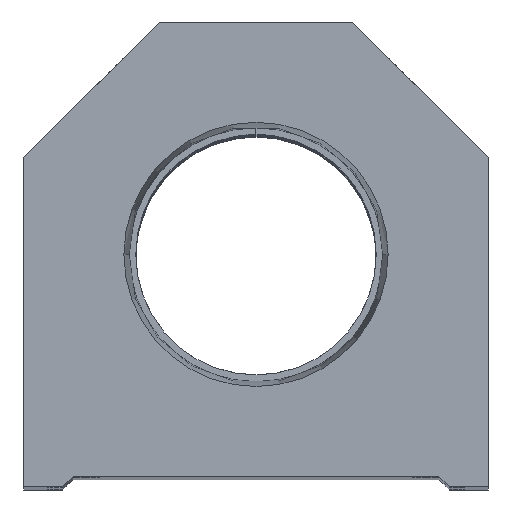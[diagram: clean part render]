
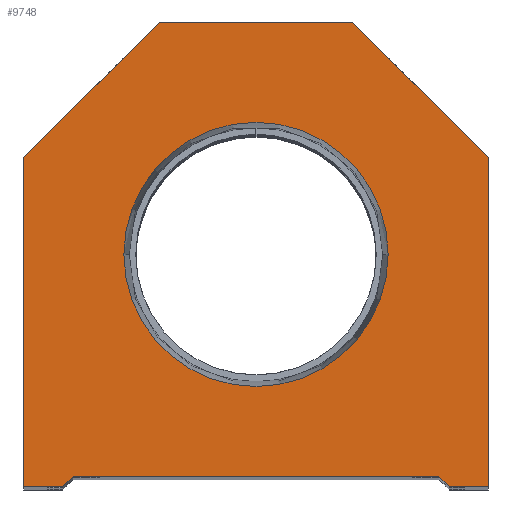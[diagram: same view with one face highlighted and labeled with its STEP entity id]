
A CAD part, top view. The second image highlights one B-rep face of the part: STEP entity #9748.
In plain terms, the highlighted planar face has unit normal (0, 0, 1).
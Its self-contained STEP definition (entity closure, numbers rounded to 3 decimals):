
#51 = CARTESIAN_POINT ( 'NONE',  ( 9.25, 9.25, 0. ) ) ;
#817 = DIRECTION ( 'NONE',  ( 1., 0., 0. ) ) ;
#842 = CARTESIAN_POINT ( 'NONE',  ( -12.647, 22.25, 0. ) ) ;
#962 = DIRECTION ( 'NONE',  ( 1., 0., 0. ) ) ;
#1086 = CARTESIAN_POINT ( 'NONE',  ( -17.5, 1., 0. ) ) ;
#1232 = ORIENTED_EDGE ( 'NONE', *, *, #11623, .F. ) ;
#1236 = VERTEX_POINT ( 'NONE', #6977 ) ;
#1244 = VERTEX_POINT ( 'NONE', #8504 ) ;
#1362 = FACE_BOUND ( 'NONE', #6510, .T. ) ;
#1692 = CARTESIAN_POINT ( 'NONE',  ( 0., 22.25, 0. ) ) ;
#1778 = CARTESIAN_POINT ( 'NONE',  ( -22.25, 31.5, 0. ) ) ;
#2147 = ORIENTED_EDGE ( 'NONE', *, *, #10904, .T. ) ;
#2173 = VERTEX_POINT ( 'NONE', #4655 ) ;
#2257 = CARTESIAN_POINT ( 'NONE',  ( 17.5, 0., 0. ) ) ;
#2320 = VECTOR ( 'NONE', #9223, 1000. ) ;
#2428 = LINE ( 'NONE', #2257, #6087 ) ;
#2539 = DIRECTION ( 'NONE',  ( 1., 0., 0. ) ) ;
#2622 = LINE ( 'NONE', #14489, #2320 ) ;
#2826 = EDGE_CURVE ( 'NONE', #2173, #12449, #11723, .T. ) ;
#3213 = VECTOR ( 'NONE', #15194, 1000. ) ;
#3239 = VECTOR ( 'NONE', #8543, 1000. ) ;
#3306 = CARTESIAN_POINT ( 'NONE',  ( -17.5, 0., 0. ) ) ;
#3555 = CARTESIAN_POINT ( 'NONE',  ( 18.5, 0., 0. ) ) ;
#3627 = DIRECTION ( 'NONE',  ( 0.707, -0.707, 0. ) ) ;
#4200 = EDGE_CURVE ( 'NONE', #13929, #14478, #13826, .T. ) ;
#4459 = EDGE_CURVE ( 'NONE', #1236, #11654, #14755, .T. ) ;
#4585 = EDGE_CURVE ( 'NONE', #14478, #2173, #11598, .T. ) ;
#4655 = CARTESIAN_POINT ( 'NONE',  ( -9.25, 44.5, 0. ) ) ;
#4717 = CARTESIAN_POINT ( 'NONE',  ( 9.25, 44.5, 0. ) ) ;
#4728 = DIRECTION ( 'NONE',  ( 0., 0., 1. ) ) ;
#4867 = CARTESIAN_POINT ( 'NONE',  ( 22.25, 0., 0. ) ) ;
#5041 = CARTESIAN_POINT ( 'NONE',  ( -9.25, 9.25, 0. ) ) ;
#5233 = ORIENTED_EDGE ( 'NONE', *, *, #9193, .T. ) ;
#5277 = EDGE_CURVE ( 'NONE', #12292, #1244, #14054, .T. ) ;
#5284 = VERTEX_POINT ( 'NONE', #3555 ) ;
#5785 = DIRECTION ( 'NONE',  ( 0., 0., 1. ) ) ;
#5833 = ORIENTED_EDGE ( 'NONE', *, *, #4200, .T. ) ;
#6087 = VECTOR ( 'NONE', #962, 1000. ) ;
#6159 = CIRCLE ( 'NONE', #12984, 12.647 ) ;
#6233 = VERTEX_POINT ( 'NONE', #14453 ) ;
#6407 = CARTESIAN_POINT ( 'NONE',  ( -22.25, 31.5, 0. ) ) ;
#6510 = EDGE_LOOP ( 'NONE', ( #8389, #1232 ) ) ;
#6518 = VECTOR ( 'NONE', #15500, 1000. ) ;
#6740 = VECTOR ( 'NONE', #10273, 1000. ) ;
#6977 = CARTESIAN_POINT ( 'NONE',  ( -22.25, 0., 0. ) ) ;
#7567 = LINE ( 'NONE', #51, #10184 ) ;
#7573 = CARTESIAN_POINT ( 'NONE',  ( 9.25, 44.5, 0. ) ) ;
#8228 = VERTEX_POINT ( 'NONE', #842 ) ;
#8281 = DIRECTION ( 'NONE',  ( 1., 0., 0. ) ) ;
#8389 = ORIENTED_EDGE ( 'NONE', *, *, #12927, .F. ) ;
#8504 = CARTESIAN_POINT ( 'NONE',  ( 17.5, 1., 0. ) ) ;
#8543 = DIRECTION ( 'NONE',  ( -0.707, 0.707, 0. ) ) ;
#8885 = CIRCLE ( 'NONE', #11338, 12.647 ) ;
#8911 = VERTEX_POINT ( 'NONE', #9052 ) ;
#8969 = PLANE ( 'NONE',  #13224 ) ;
#9052 = CARTESIAN_POINT ( 'NONE',  ( 22.25, 0., 0. ) ) ;
#9076 = DIRECTION ( 'NONE',  ( 0., 1., 0. ) ) ;
#9193 = EDGE_CURVE ( 'NONE', #1244, #5284, #7567, .T. ) ;
#9223 = DIRECTION ( 'NONE',  ( 0., -1., 0. ) ) ;
#9517 = EDGE_CURVE ( 'NONE', #5284, #8911, #2428, .T. ) ;
#9748 = ADVANCED_FACE ( 'NONE', ( #1362, #10514 ), #8969, .T. ) ;
#10184 = VECTOR ( 'NONE', #3627, 1000. ) ;
#10273 = DIRECTION ( 'NONE',  ( 0.707, 0.707, 0. ) ) ;
#10514 = FACE_OUTER_BOUND ( 'NONE', #12221, .T. ) ;
#10846 = CARTESIAN_POINT ( 'NONE',  ( -18.5, 0., 0. ) ) ;
#10904 = EDGE_CURVE ( 'NONE', #8911, #13929, #15449, .T. ) ;
#11112 = EDGE_CURVE ( 'NONE', #12449, #1236, #2622, .T. ) ;
#11246 = ORIENTED_EDGE ( 'NONE', *, *, #9517, .T. ) ;
#11338 = AXIS2_PLACEMENT_3D ( 'NONE', #1692, #5785, #12123 ) ;
#11536 = CARTESIAN_POINT ( 'NONE',  ( 0., 0., 0. ) ) ;
#11598 = LINE ( 'NONE', #7573, #6518 ) ;
#11614 = DIRECTION ( 'NONE',  ( 0., 0., 1. ) ) ;
#11623 = EDGE_CURVE ( 'NONE', #8228, #6233, #8885, .T. ) ;
#11654 = VERTEX_POINT ( 'NONE', #10846 ) ;
#11723 = LINE ( 'NONE', #6407, #3213 ) ;
#12123 = DIRECTION ( 'NONE',  ( 1., 0., 0. ) ) ;
#12221 = EDGE_LOOP ( 'NONE', ( #15669, #13210, #13648, #5233, #11246, #2147, #5833, #16251, #13941, #13930 ) ) ;
#12292 = VERTEX_POINT ( 'NONE', #16618 ) ;
#12449 = VERTEX_POINT ( 'NONE', #1778 ) ;
#12927 = EDGE_CURVE ( 'NONE', #6233, #8228, #6159, .T. ) ;
#12984 = AXIS2_PLACEMENT_3D ( 'NONE', #15310, #4728, #817 ) ;
#13210 = ORIENTED_EDGE ( 'NONE', *, *, #15700, .T. ) ;
#13224 = AXIS2_PLACEMENT_3D ( 'NONE', #11536, #11614, #14237 ) ;
#13648 = ORIENTED_EDGE ( 'NONE', *, *, #5277, .T. ) ;
#13826 = LINE ( 'NONE', #15094, #3239 ) ;
#13845 = VECTOR ( 'NONE', #2539, 1000. ) ;
#13929 = VERTEX_POINT ( 'NONE', #16854 ) ;
#13930 = ORIENTED_EDGE ( 'NONE', *, *, #11112, .T. ) ;
#13941 = ORIENTED_EDGE ( 'NONE', *, *, #2826, .T. ) ;
#14054 = LINE ( 'NONE', #1086, #13845 ) ;
#14237 = DIRECTION ( 'NONE',  ( 1., 0., 0. ) ) ;
#14453 = CARTESIAN_POINT ( 'NONE',  ( 12.647, 22.25, 0. ) ) ;
#14478 = VERTEX_POINT ( 'NONE', #4717 ) ;
#14489 = CARTESIAN_POINT ( 'NONE',  ( -22.25, 0., 0. ) ) ;
#14755 = LINE ( 'NONE', #3306, #16325 ) ;
#15094 = CARTESIAN_POINT ( 'NONE',  ( 22.25, 31.5, 0. ) ) ;
#15194 = DIRECTION ( 'NONE',  ( -0.707, -0.707, 0. ) ) ;
#15310 = CARTESIAN_POINT ( 'NONE',  ( 0., 22.25, 0. ) ) ;
#15366 = LINE ( 'NONE', #5041, #6740 ) ;
#15449 = LINE ( 'NONE', #4867, #16207 ) ;
#15500 = DIRECTION ( 'NONE',  ( -1., 0., 0. ) ) ;
#15669 = ORIENTED_EDGE ( 'NONE', *, *, #4459, .T. ) ;
#15700 = EDGE_CURVE ( 'NONE', #11654, #12292, #15366, .T. ) ;
#16207 = VECTOR ( 'NONE', #9076, 1000. ) ;
#16251 = ORIENTED_EDGE ( 'NONE', *, *, #4585, .T. ) ;
#16325 = VECTOR ( 'NONE', #8281, 1000. ) ;
#16618 = CARTESIAN_POINT ( 'NONE',  ( -17.5, 1., 0. ) ) ;
#16854 = CARTESIAN_POINT ( 'NONE',  ( 22.25, 31.5, 0. ) ) ;
